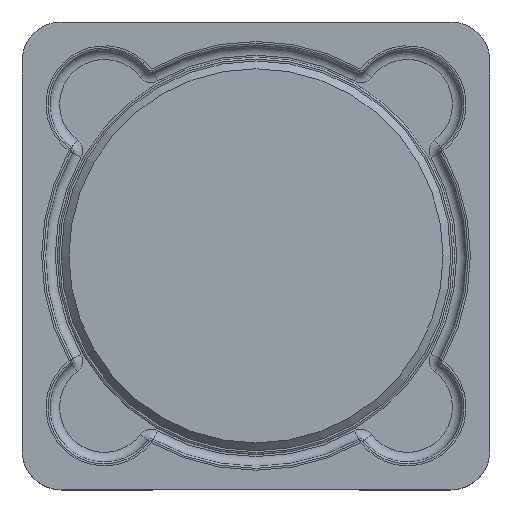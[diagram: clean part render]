
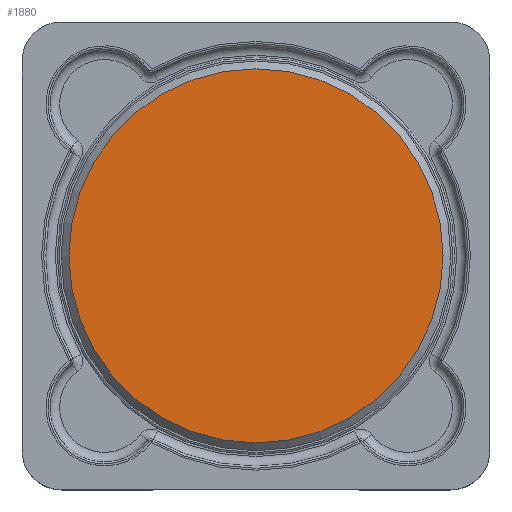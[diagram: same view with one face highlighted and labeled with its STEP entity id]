
A CAD part, top view. The second image highlights one B-rep face of the part: STEP entity #1880.
In plain terms, the highlighted planar face has unit normal (0, 0, 1).
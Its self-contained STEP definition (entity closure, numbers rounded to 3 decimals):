
#1880 = ADVANCED_FACE('',(#1881),#1892,.F.);
#1881 = FACE_BOUND('',#1882,.T.);
#1882 = EDGE_LOOP('',(#1883));
#1883 = ORIENTED_EDGE('',*,*,#1884,.F.);
#1884 = EDGE_CURVE('',#1885,#1885,#1887,.T.);
#1885 = VERTEX_POINT('',#1886);
#1886 = CARTESIAN_POINT('',(4.8,0.,4.2));
#1887 = CIRCLE('',#1888,4.8);
#1888 = AXIS2_PLACEMENT_3D('',#1889,#1890,#1891);
#1889 = CARTESIAN_POINT('',(0.,0.,4.2));
#1890 = DIRECTION('',(0.,0.,-1.));
#1891 = DIRECTION('',(1.,0.,0.));
#1892 = PLANE('',#1893);
#1893 = AXIS2_PLACEMENT_3D('',#1894,#1895,#1896);
#1894 = CARTESIAN_POINT('',(0.,0.,4.2));
#1895 = DIRECTION('',(0.,0.,-1.));
#1896 = DIRECTION('',(1.,0.,0.));
